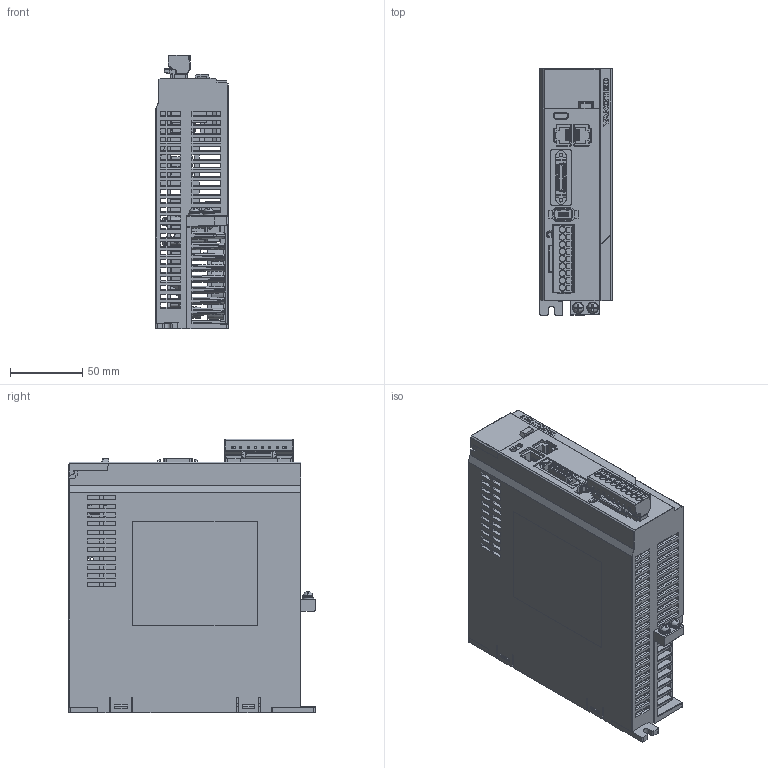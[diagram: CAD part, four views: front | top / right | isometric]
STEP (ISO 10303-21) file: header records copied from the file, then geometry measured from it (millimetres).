
FILE_DESCRIPTION((''),'2;1');
FILE_NAME('ES3F-10BAI','2026-04-15T14:04:17',('Admin'),(''),'CREO PARAMETRIC BY PTC INC, 2020074','CREO PARAMETRIC BY PTC INC, 2020074','');
FILE_SCHEMA(('CONFIG_CONTROL_DESIGN'));
Products named in the file (1): ES3F-10BAI
Bounding box: 50 x 170 x 188.8 mm (x, y, z)
Volume: 424116.8 mm3; surface area: 341054.6 mm2
Topology: 3 solids, 99 shells, 7239 faces, 20054 edges, 13035 vertices
Faces by surface type: plane 4899, cylinder 1570, bspline 358, cone 135, torus 131, sphere 77, extrusion 69
Entity records: 249863 total; most frequent: CARTESIAN_POINT 66486, ORIENTED_EDGE 39984, DIRECTION 34903, EDGE_CURVE 19992, VECTOR 15009, LINE 14940, VERTEX_POINT 13044, AXIS2_PLACEMENT_3D 9947
